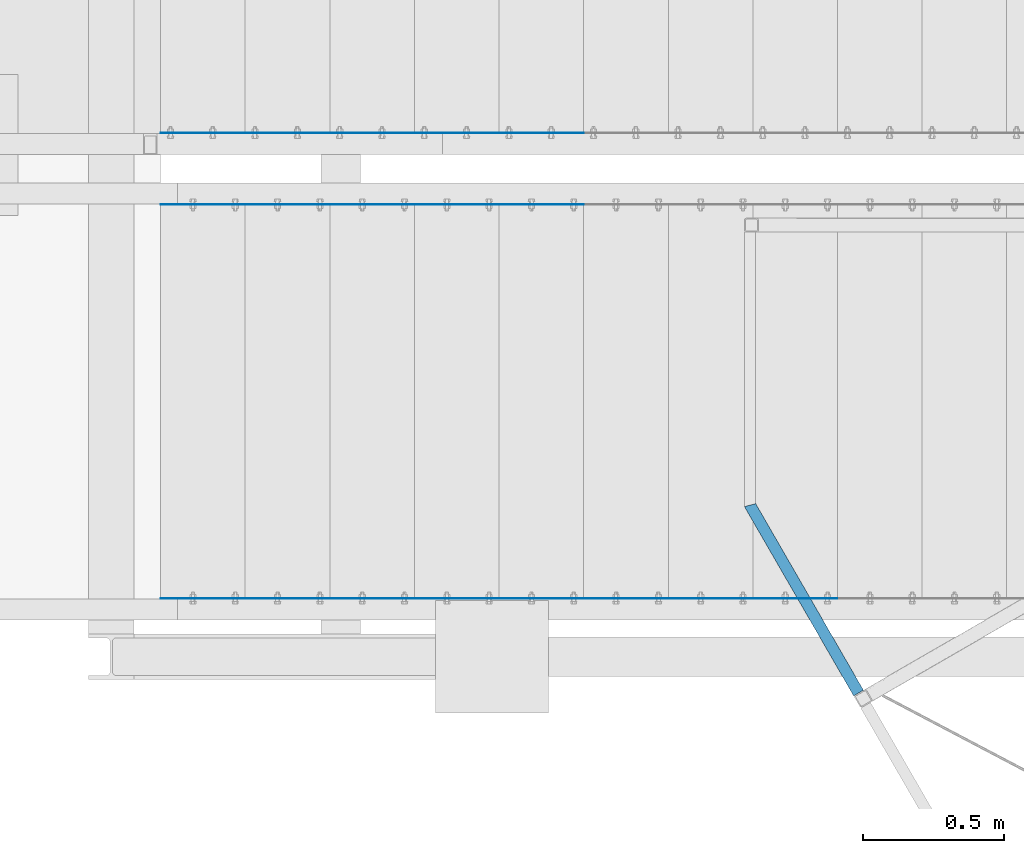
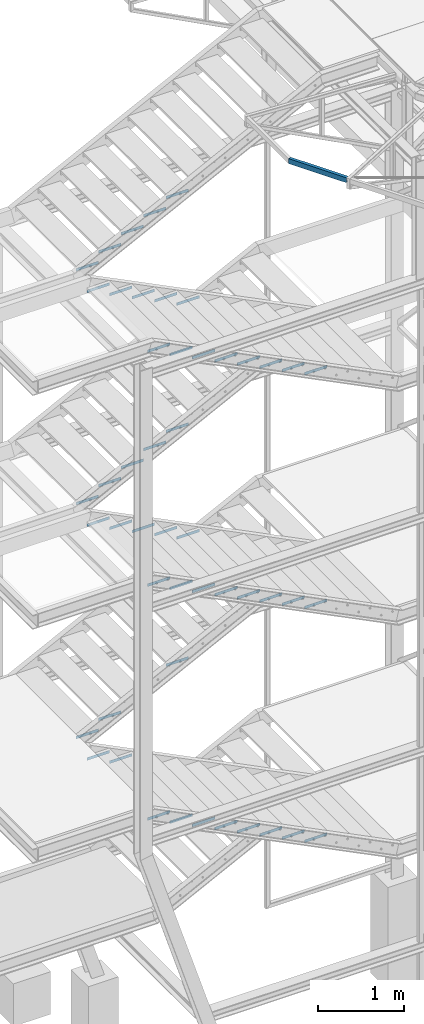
# One storey, part 64 of 132: 50 discrete accessories, 38 elements without a shape of their own.
"""IFC2X3 building model written with IfcOpenShell, lengths in millimetres."""

from ifc_helpers import new_model, si_unit, frame, origin_with_axes, origin_2d_with_axis, place, context, subcontext, project, spatial, rectangle, u_section, extrude, clip, halfspace, material, type_object, element, aggregate, save


model = new_model("IFC2X3")

# Units and contexts
model_context = context("Model", 3, precision=1e-05, world=origin_with_axes())
body_context = subcontext(model_context, "Body", "Model", "MODEL_VIEW")
ifc_project = project(units=[si_unit("LENGTHUNIT", "METRE", prefix="MILLI"), si_unit("AREAUNIT", "SQUARE_METRE"), si_unit("VOLUMEUNIT", "CUBIC_METRE"), si_unit("MASSUNIT", "GRAM", prefix="KILO"), si_unit("TIMEUNIT", "SECOND"), si_unit("PLANEANGLEUNIT", "RADIAN"), si_unit("SOLIDANGLEUNIT", "STERADIAN"), si_unit("THERMODYNAMICTEMPERATUREUNIT", "DEGREE_CELSIUS"), si_unit("LUMINOUSINTENSITYUNIT", "LUMEN")], contexts=[model_context])

# Site, building, storey
site_placement = place(None, origin_with_axes())
site = spatial("IfcSite", under=ifc_project, at=site_placement, Name="Budowa", CompositionType="ELEMENT")
building_placement = place(site_placement, origin_with_axes())
building = spatial("IfcBuilding", under=site, at=building_placement, Name="Undefined", CompositionType="ELEMENT")
storey_placement = place(building_placement, origin_with_axes())
storey = spatial("IfcBuildingStorey", under=building, at=storey_placement, Name="Undefined", CompositionType="ELEMENT", Elevation=0.0)

# Assembly, discrete accessory
assembly_1_placement = place(storey_placement, origin_with_axes())
assembly_1 = element("IfcElementAssembly", 1, at=assembly_1_placement, inside=storey, Name="Steel Assembly", AssemblyPlace="NOTDEFINED", PredefinedType="RIGID_FRAME")
ifc_material_1 = material(Name="STEEL/S235")
discrete_accessory_type_1 = type_object("IfcDiscreteAccessoryType", Name="BEAM")
discrete_accessory_1_placement = place(assembly_1_placement, frame((-2120.29630928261, 8363.77545314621, 13945.004638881), z_axis=(0.0, 0.0, -1.0), x_axis=(0.499961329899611, -0.866047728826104, 3.99999999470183e-07)))
discrete_accessory_1 = element("IfcDiscreteAccessory", 2, at=discrete_accessory_1_placement, type_object=discrete_accessory_type_1, material=ifc_material_1, Name="BEAM", ObjectType="C70*40*4", context=body_context, shape_type="Clipping", body=[
    clip(extrude(u_section(Depth=70.0, FlangeWidth=40.0, WebThickness=4.0, FlangeThickness=4.0, FilletRadius=6.0, at=origin_2d_with_axis()), frame((950.000000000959, 1.82248795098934e-14, 0.0), z_axis=(-1.0, 0.0, 0.0), x_axis=(0.0, -1.0, 0.0)), (0.0, 0.0, 1.0), 801.67), halfspace(frame((185.964342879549, -20.0000242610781, -1.38634150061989e-05), z_axis=(-0.965931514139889, -0.258797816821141, -1.79406585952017e-07), x_axis=(0.0, 0.0, -1.0)), False)),
])
aggregate(assembly_1, [discrete_accessory_1])

assembly_2_placement = place(storey_placement, origin_with_axes())
assembly_2 = element("IfcElementAssembly", 3, at=assembly_2_placement, inside=storey, Name="Steel Assembly", AssemblyPlace="NOTDEFINED", PredefinedType="RIGID_FRAME")
ifc_material_2 = material(Name="STEEL/S235JR")
discrete_accessory_type_2 = type_object("IfcDiscreteAccessoryType", Name="ANGLE")
discrete_accessory_2_placement = place(assembly_2_placement, frame((-2620.00000008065, 9526.5000000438, 12929.9999999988), z_axis=(0.0, 1.0, 0.0), x_axis=(-1.0, 0.0, 0.0)))
discrete_accessory_2 = element("IfcDiscreteAccessory", 4, at=discrete_accessory_2_placement, type_object=discrete_accessory_type_2, material=ifc_material_2, Name="ANGLE", ObjectType="3*40", context=body_context, shape_type="SweptSolid", body=[
    extrude(rectangle(XDim=40.0, YDim=3.0, at=origin_2d_with_axis()), frame((300.0, 0.0, 0.0), z_axis=(-1.0, 0.0, 0.0), x_axis=(0.0, -1.0, 0.0)), (0.0, 0.0, 1.0), 300.0),
])
aggregate(assembly_2, [discrete_accessory_2])

assembly_3_placement = place(storey_placement, origin_with_axes())
assembly_3 = element("IfcElementAssembly", 5, at=assembly_3_placement, inside=storey, Name="Steel Assembly", AssemblyPlace="NOTDEFINED", PredefinedType="RIGID_FRAME")
discrete_accessory_3_placement = place(assembly_3_placement, frame((-2920.00000008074, 9526.5000000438, 12779.9999999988), z_axis=(0.0, 1.0, 0.0), x_axis=(-1.0, 0.0, 0.0)))
discrete_accessory_3 = element("IfcDiscreteAccessory", 6, at=discrete_accessory_3_placement, type_object=discrete_accessory_type_2, material=ifc_material_2, Name="ANGLE", ObjectType="3*40", context=body_context, shape_type="SweptSolid", body=[
    extrude(rectangle(XDim=40.0, YDim=3.0, at=origin_2d_with_axis()), frame((300.0, 0.0, 0.0), z_axis=(-1.0, 0.0, 0.0), x_axis=(0.0, -1.0, 0.0)), (0.0, 0.0, 1.0), 300.0),
])
aggregate(assembly_3, [discrete_accessory_3])

assembly_4_placement = place(storey_placement, origin_with_axes())
assembly_4 = element("IfcElementAssembly", 7, at=assembly_4_placement, inside=storey, Name="Steel Assembly", AssemblyPlace="NOTDEFINED", PredefinedType="RIGID_FRAME")
discrete_accessory_4_placement = place(assembly_4_placement, frame((-3220.00000008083, 9526.5000000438, 12629.9999999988), z_axis=(0.0, 1.0, 0.0), x_axis=(-1.0, 0.0, 0.0)))
discrete_accessory_4 = element("IfcDiscreteAccessory", 8, at=discrete_accessory_4_placement, type_object=discrete_accessory_type_2, material=ifc_material_2, Name="ANGLE", ObjectType="3*40", context=body_context, shape_type="SweptSolid", body=[
    extrude(rectangle(XDim=40.0, YDim=3.0, at=origin_2d_with_axis()), frame((300.0, 0.0, 0.0), z_axis=(-1.0, 0.0, 0.0), x_axis=(0.0, -1.0, 0.0)), (0.0, 0.0, 1.0), 300.0),
])
aggregate(assembly_4, [discrete_accessory_4])

assembly_5_placement = place(storey_placement, origin_with_axes())
assembly_5 = element("IfcElementAssembly", 9, at=assembly_5_placement, inside=storey, Name="Steel Assembly", AssemblyPlace="NOTDEFINED", PredefinedType="RIGID_FRAME")
discrete_accessory_5_placement = place(assembly_5_placement, frame((-3520.00000008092, 9526.5000000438, 12479.9999999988), z_axis=(0.0, 1.0, 0.0), x_axis=(-1.0, 0.0, 0.0)))
discrete_accessory_5 = element("IfcDiscreteAccessory", 10, at=discrete_accessory_5_placement, type_object=discrete_accessory_type_2, material=ifc_material_2, Name="ANGLE", ObjectType="3*40", context=body_context, shape_type="SweptSolid", body=[
    extrude(rectangle(XDim=40.0, YDim=3.0, at=origin_2d_with_axis()), frame((300.0, 0.0, 0.0), z_axis=(-1.0, 0.0, 0.0), x_axis=(0.0, -1.0, 0.0)), (0.0, 0.0, 1.0), 300.0),
])
aggregate(assembly_5, [discrete_accessory_5])

assembly_6_placement = place(storey_placement, origin_with_axes())
assembly_6 = element("IfcElementAssembly", 11, at=assembly_6_placement, inside=storey, Name="Steel Assembly", AssemblyPlace="NOTDEFINED", PredefinedType="RIGID_FRAME")
discrete_accessory_6_placement = place(assembly_6_placement, frame((-3820.00000008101, 9526.5000000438, 12329.9999999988), z_axis=(0.0, 1.0, 0.0), x_axis=(-1.0, 0.0, 0.0)))
discrete_accessory_6 = element("IfcDiscreteAccessory", 12, at=discrete_accessory_6_placement, type_object=discrete_accessory_type_2, material=ifc_material_2, Name="ANGLE", ObjectType="3*40", context=body_context, shape_type="SweptSolid", body=[
    extrude(rectangle(XDim=40.0, YDim=3.0, at=origin_2d_with_axis()), frame((300.0, 0.0, 0.0), z_axis=(-1.0, 0.0, 0.0), x_axis=(0.0, -1.0, 0.0)), (0.0, 0.0, 1.0), 300.0),
])
aggregate(assembly_6, [discrete_accessory_6])

# Assembly, discrete accessories
assembly_7_placement = place(storey_placement, origin_with_axes())
assembly_7 = element("IfcElementAssembly", 13, at=assembly_7_placement, inside=storey, Name="Steel Assembly", AssemblyPlace="NOTDEFINED", PredefinedType="RIGID_FRAME")
discrete_accessory_7_placement = place(assembly_7_placement, frame((-3820.00000007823, 7876.50000004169, 12180.0000000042), z_axis=(0.0, 1.0, 0.0), x_axis=(-1.0, 0.0, 0.0)))
discrete_accessory_7 = element("IfcDiscreteAccessory", 14, at=discrete_accessory_7_placement, type_object=discrete_accessory_type_2, material=ifc_material_2, Name="ANGLE", ObjectType="3*40", context=body_context, shape_type="SweptSolid", body=[
    extrude(rectangle(XDim=40.0, YDim=3.0, at=origin_2d_with_axis()), frame((300.0, 0.0, 0.0), z_axis=(-1.0, 0.0, 0.0), x_axis=(0.0, -1.0, 0.0)), (0.0, 0.0, 1.0), 300.0),
])
discrete_accessory_8_placement = place(assembly_7_placement, frame((-4120.00000007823, 9273.50000004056, 12180.0000000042), z_axis=(0.0, -1.0, 0.0), x_axis=(1.0, 0.0, 0.0)))
discrete_accessory_8 = element("IfcDiscreteAccessory", 15, at=discrete_accessory_8_placement, type_object=discrete_accessory_type_2, material=ifc_material_2, Name="ANGLE", ObjectType="3*40", context=body_context, shape_type="SweptSolid", body=[
    extrude(rectangle(XDim=40.0, YDim=3.0, at=origin_2d_with_axis()), frame((300.0, 0.0, 0.0), z_axis=(-1.0, 0.0, 0.0), x_axis=(0.0, -1.0, 0.0)), (0.0, 0.0, 1.0), 300.0),
])
aggregate(assembly_7, [discrete_accessory_7, discrete_accessory_8])

assembly_8_placement = place(storey_placement, origin_with_axes())
assembly_8 = element("IfcElementAssembly", 16, at=assembly_8_placement, inside=storey, Name="Steel Assembly", AssemblyPlace="NOTDEFINED", PredefinedType="RIGID_FRAME")
discrete_accessory_9_placement = place(assembly_8_placement, frame((-3520.00000007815, 7876.50000004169, 12030.0000000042), z_axis=(0.0, 1.0, 0.0), x_axis=(-1.0, 0.0, 0.0)))
discrete_accessory_9 = element("IfcDiscreteAccessory", 17, at=discrete_accessory_9_placement, type_object=discrete_accessory_type_2, material=ifc_material_2, Name="ANGLE", ObjectType="3*40", context=body_context, shape_type="SweptSolid", body=[
    extrude(rectangle(XDim=40.0, YDim=3.0, at=origin_2d_with_axis()), frame((300.0, 0.0, 0.0), z_axis=(-1.0, 0.0, 0.0), x_axis=(0.0, -1.0, 0.0)), (0.0, 0.0, 1.0), 300.0),
])
discrete_accessory_10_placement = place(assembly_8_placement, frame((-3820.00000007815, 9273.50000004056, 12030.0000000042), z_axis=(0.0, -1.0, 0.0), x_axis=(1.0, 0.0, 0.0)))
discrete_accessory_10 = element("IfcDiscreteAccessory", 18, at=discrete_accessory_10_placement, type_object=discrete_accessory_type_2, material=ifc_material_2, Name="ANGLE", ObjectType="3*40", context=body_context, shape_type="SweptSolid", body=[
    extrude(rectangle(XDim=40.0, YDim=3.0, at=origin_2d_with_axis()), frame((300.0, 0.0, 0.0), z_axis=(-1.0, 0.0, 0.0), x_axis=(0.0, -1.0, 0.0)), (0.0, 0.0, 1.0), 300.0),
])
aggregate(assembly_8, [discrete_accessory_9, discrete_accessory_10])

assembly_9_placement = place(storey_placement, origin_with_axes())
assembly_9 = element("IfcElementAssembly", 19, at=assembly_9_placement, inside=storey, Name="Steel Assembly", AssemblyPlace="NOTDEFINED", PredefinedType="RIGID_FRAME")
discrete_accessory_11_placement = place(assembly_9_placement, frame((-3220.00000007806, 7876.50000004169, 11880.0000000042), z_axis=(0.0, 1.0, 0.0), x_axis=(-1.0, 0.0, 0.0)))
discrete_accessory_11 = element("IfcDiscreteAccessory", 20, at=discrete_accessory_11_placement, type_object=discrete_accessory_type_2, material=ifc_material_2, Name="ANGLE", ObjectType="3*40", context=body_context, shape_type="SweptSolid", body=[
    extrude(rectangle(XDim=40.0, YDim=3.0, at=origin_2d_with_axis()), frame((300.0, 0.0, 0.0), z_axis=(-1.0, 0.0, 0.0), x_axis=(0.0, -1.0, 0.0)), (0.0, 0.0, 1.0), 300.0),
])
discrete_accessory_12_placement = place(assembly_9_placement, frame((-3520.00000007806, 9273.50000004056, 11880.0000000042), z_axis=(0.0, -1.0, 0.0), x_axis=(1.0, 0.0, 0.0)))
discrete_accessory_12 = element("IfcDiscreteAccessory", 21, at=discrete_accessory_12_placement, type_object=discrete_accessory_type_2, material=ifc_material_2, Name="ANGLE", ObjectType="3*40", context=body_context, shape_type="SweptSolid", body=[
    extrude(rectangle(XDim=40.0, YDim=3.0, at=origin_2d_with_axis()), frame((300.0, 0.0, 0.0), z_axis=(-1.0, 0.0, 0.0), x_axis=(0.0, -1.0, 0.0)), (0.0, 0.0, 1.0), 300.0),
])
aggregate(assembly_9, [discrete_accessory_11, discrete_accessory_12])

assembly_10_placement = place(storey_placement, origin_with_axes())
assembly_10 = element("IfcElementAssembly", 22, at=assembly_10_placement, inside=storey, Name="Steel Assembly", AssemblyPlace="NOTDEFINED", PredefinedType="RIGID_FRAME")
discrete_accessory_13_placement = place(assembly_10_placement, frame((-2920.00000007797, 7876.50000004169, 11730.0000000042), z_axis=(0.0, 1.0, 0.0), x_axis=(-1.0, 0.0, 0.0)))
discrete_accessory_13 = element("IfcDiscreteAccessory", 23, at=discrete_accessory_13_placement, type_object=discrete_accessory_type_2, material=ifc_material_2, Name="ANGLE", ObjectType="3*40", context=body_context, shape_type="SweptSolid", body=[
    extrude(rectangle(XDim=40.0, YDim=3.0, at=origin_2d_with_axis()), frame((300.0, 0.0, 0.0), z_axis=(-1.0, 0.0, 0.0), x_axis=(0.0, -1.0, 0.0)), (0.0, 0.0, 1.0), 300.0),
])
discrete_accessory_14_placement = place(assembly_10_placement, frame((-3220.00000007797, 9273.50000004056, 11730.0000000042), z_axis=(0.0, -1.0, 0.0), x_axis=(1.0, 0.0, 0.0)))
discrete_accessory_14 = element("IfcDiscreteAccessory", 24, at=discrete_accessory_14_placement, type_object=discrete_accessory_type_2, material=ifc_material_2, Name="ANGLE", ObjectType="3*40", context=body_context, shape_type="SweptSolid", body=[
    extrude(rectangle(XDim=40.0, YDim=3.0, at=origin_2d_with_axis()), frame((300.0, 0.0, 0.0), z_axis=(-1.0, 0.0, 0.0), x_axis=(0.0, -1.0, 0.0)), (0.0, 0.0, 1.0), 300.0),
])
aggregate(assembly_10, [discrete_accessory_13, discrete_accessory_14])

assembly_11_placement = place(storey_placement, origin_with_axes())
assembly_11 = element("IfcElementAssembly", 25, at=assembly_11_placement, inside=storey, Name="Steel Assembly", AssemblyPlace="NOTDEFINED", PredefinedType="RIGID_FRAME")
discrete_accessory_15_placement = place(assembly_11_placement, frame((-2620.00000007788, 7876.50000004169, 11580.000000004), z_axis=(0.0, 1.0, 0.0), x_axis=(-1.0, 0.0, 0.0)))
discrete_accessory_15 = element("IfcDiscreteAccessory", 26, at=discrete_accessory_15_placement, type_object=discrete_accessory_type_2, material=ifc_material_2, Name="ANGLE", ObjectType="3*40", context=body_context, shape_type="SweptSolid", body=[
    extrude(rectangle(XDim=40.0, YDim=3.0, at=origin_2d_with_axis()), frame((300.0, 0.0, 0.0), z_axis=(-1.0, 0.0, 0.0), x_axis=(0.0, -1.0, 0.0)), (0.0, 0.0, 1.0), 300.0),
])
discrete_accessory_16_placement = place(assembly_11_placement, frame((-2920.00000007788, 9273.50000004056, 11580.0000000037), z_axis=(0.0, -1.0, 0.0), x_axis=(1.0, 0.0, 0.0)))
discrete_accessory_16 = element("IfcDiscreteAccessory", 27, at=discrete_accessory_16_placement, type_object=discrete_accessory_type_2, material=ifc_material_2, Name="ANGLE", ObjectType="3*40", context=body_context, shape_type="SweptSolid", body=[
    extrude(rectangle(XDim=40.0, YDim=3.0, at=origin_2d_with_axis()), frame((300.0, 0.0, 0.0), z_axis=(-1.0, 0.0, 0.0), x_axis=(0.0, -1.0, 0.0)), (0.0, 0.0, 1.0), 300.0),
])
aggregate(assembly_11, [discrete_accessory_15, discrete_accessory_16])

# Assembly, discrete accessory
assembly_12_placement = place(storey_placement, origin_with_axes())
assembly_12 = element("IfcElementAssembly", 28, at=assembly_12_placement, inside=storey, Name="Steel Assembly", AssemblyPlace="NOTDEFINED", PredefinedType="RIGID_FRAME")
discrete_accessory_17_placement = place(assembly_12_placement, frame((-2320.00000007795, 7876.50000004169, 11430.000000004), z_axis=(0.0, 1.0, 0.0), x_axis=(-1.0, 0.0, 0.0)))
discrete_accessory_17 = element("IfcDiscreteAccessory", 29, at=discrete_accessory_17_placement, type_object=discrete_accessory_type_2, material=ifc_material_2, Name="ANGLE", ObjectType="3*40", context=body_context, shape_type="SweptSolid", body=[
    extrude(rectangle(XDim=40.0, YDim=3.0, at=origin_2d_with_axis()), frame((300.0, 0.0, 0.0), z_axis=(-1.0, 0.0, 0.0), x_axis=(0.0, -1.0, 0.0)), (0.0, 0.0, 1.0), 300.0),
])
aggregate(assembly_12, [discrete_accessory_17])

assembly_13_placement = place(storey_placement, origin_with_axes())
assembly_13 = element("IfcElementAssembly", 30, at=assembly_13_placement, inside=storey, Name="Steel Assembly", AssemblyPlace="NOTDEFINED", PredefinedType="RIGID_FRAME")
discrete_accessory_18_placement = place(assembly_13_placement, frame((-2020.00000007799, 7876.50000004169, 11280.0000000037), z_axis=(0.0, 1.0, 0.0), x_axis=(-1.0, 0.0, 0.0)))
discrete_accessory_18 = element("IfcDiscreteAccessory", 31, at=discrete_accessory_18_placement, type_object=discrete_accessory_type_2, material=ifc_material_2, Name="ANGLE", ObjectType="3*40", context=body_context, shape_type="SweptSolid", body=[
    extrude(rectangle(XDim=40.0, YDim=3.0, at=origin_2d_with_axis()), frame((300.0, 0.0, 0.0), z_axis=(-1.0, 0.0, 0.0), x_axis=(0.0, -1.0, 0.0)), (0.0, 0.0, 1.0), 300.0),
])
aggregate(assembly_13, [discrete_accessory_18])

assembly_14_placement = place(storey_placement, origin_with_axes())
assembly_14 = element("IfcElementAssembly", 32, at=assembly_14_placement, inside=storey, Name="Steel Assembly", AssemblyPlace="NOTDEFINED", PredefinedType="RIGID_FRAME")
discrete_accessory_19_placement = place(assembly_14_placement, frame((-1720.00000007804, 7876.50000004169, 11130.0000000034), z_axis=(0.0, 1.0, 0.0), x_axis=(-1.0, 0.0, 0.0)))
discrete_accessory_19 = element("IfcDiscreteAccessory", 33, at=discrete_accessory_19_placement, type_object=discrete_accessory_type_2, material=ifc_material_2, Name="ANGLE", ObjectType="3*40", context=body_context, shape_type="SweptSolid", body=[
    extrude(rectangle(XDim=40.0, YDim=3.0, at=origin_2d_with_axis()), frame((300.0, 0.0, 0.0), z_axis=(-1.0, 0.0, 0.0), x_axis=(0.0, -1.0, 0.0)), (0.0, 0.0, 1.0), 300.0),
])
aggregate(assembly_14, [discrete_accessory_19])

assembly_15_placement = place(storey_placement, origin_with_axes())
assembly_15 = element("IfcElementAssembly", 34, at=assembly_15_placement, inside=storey, Name="Steel Assembly", AssemblyPlace="NOTDEFINED", PredefinedType="RIGID_FRAME")
discrete_accessory_20_placement = place(assembly_15_placement, frame((-2620.00000008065, 9526.5000000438, 9629.99999999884), z_axis=(0.0, 1.0, 0.0), x_axis=(-1.0, 0.0, 0.0)))
discrete_accessory_20 = element("IfcDiscreteAccessory", 35, at=discrete_accessory_20_placement, type_object=discrete_accessory_type_2, material=ifc_material_2, Name="ANGLE", ObjectType="3*40", context=body_context, shape_type="SweptSolid", body=[
    extrude(rectangle(XDim=40.0, YDim=3.0, at=origin_2d_with_axis()), frame((300.0, 0.0, 0.0), z_axis=(-1.0, 0.0, 0.0), x_axis=(0.0, -1.0, 0.0)), (0.0, 0.0, 1.0), 300.0),
])
aggregate(assembly_15, [discrete_accessory_20])

assembly_16_placement = place(storey_placement, origin_with_axes())
assembly_16 = element("IfcElementAssembly", 36, at=assembly_16_placement, inside=storey, Name="Steel Assembly", AssemblyPlace="NOTDEFINED", PredefinedType="RIGID_FRAME")
discrete_accessory_21_placement = place(assembly_16_placement, frame((-2920.00000008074, 9526.5000000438, 9479.99999999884), z_axis=(0.0, 1.0, 0.0), x_axis=(-1.0, 0.0, 0.0)))
discrete_accessory_21 = element("IfcDiscreteAccessory", 37, at=discrete_accessory_21_placement, type_object=discrete_accessory_type_2, material=ifc_material_2, Name="ANGLE", ObjectType="3*40", context=body_context, shape_type="SweptSolid", body=[
    extrude(rectangle(XDim=40.0, YDim=3.0, at=origin_2d_with_axis()), frame((300.0, 0.0, 0.0), z_axis=(-1.0, 0.0, 0.0), x_axis=(0.0, -1.0, 0.0)), (0.0, 0.0, 1.0), 300.0),
])
aggregate(assembly_16, [discrete_accessory_21])

assembly_17_placement = place(storey_placement, origin_with_axes())
assembly_17 = element("IfcElementAssembly", 38, at=assembly_17_placement, inside=storey, Name="Steel Assembly", AssemblyPlace="NOTDEFINED", PredefinedType="RIGID_FRAME")
discrete_accessory_22_placement = place(assembly_17_placement, frame((-3220.00000008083, 9526.5000000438, 9329.99999999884), z_axis=(0.0, 1.0, 0.0), x_axis=(-1.0, 0.0, 0.0)))
discrete_accessory_22 = element("IfcDiscreteAccessory", 39, at=discrete_accessory_22_placement, type_object=discrete_accessory_type_2, material=ifc_material_2, Name="ANGLE", ObjectType="3*40", context=body_context, shape_type="SweptSolid", body=[
    extrude(rectangle(XDim=40.0, YDim=3.0, at=origin_2d_with_axis()), frame((300.0, 0.0, 0.0), z_axis=(-1.0, 0.0, 0.0), x_axis=(0.0, -1.0, 0.0)), (0.0, 0.0, 1.0), 300.0),
])
aggregate(assembly_17, [discrete_accessory_22])

assembly_18_placement = place(storey_placement, origin_with_axes())
assembly_18 = element("IfcElementAssembly", 40, at=assembly_18_placement, inside=storey, Name="Steel Assembly", AssemblyPlace="NOTDEFINED", PredefinedType="RIGID_FRAME")
discrete_accessory_23_placement = place(assembly_18_placement, frame((-3520.00000008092, 9526.5000000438, 9179.99999999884), z_axis=(0.0, 1.0, 0.0), x_axis=(-1.0, 0.0, 0.0)))
discrete_accessory_23 = element("IfcDiscreteAccessory", 41, at=discrete_accessory_23_placement, type_object=discrete_accessory_type_2, material=ifc_material_2, Name="ANGLE", ObjectType="3*40", context=body_context, shape_type="SweptSolid", body=[
    extrude(rectangle(XDim=40.0, YDim=3.0, at=origin_2d_with_axis()), frame((300.0, 0.0, 0.0), z_axis=(-1.0, 0.0, 0.0), x_axis=(0.0, -1.0, 0.0)), (0.0, 0.0, 1.0), 300.0),
])
aggregate(assembly_18, [discrete_accessory_23])

assembly_19_placement = place(storey_placement, origin_with_axes())
assembly_19 = element("IfcElementAssembly", 42, at=assembly_19_placement, inside=storey, Name="Steel Assembly", AssemblyPlace="NOTDEFINED", PredefinedType="RIGID_FRAME")
discrete_accessory_24_placement = place(assembly_19_placement, frame((-3820.00000008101, 9526.5000000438, 9029.99999999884), z_axis=(0.0, 1.0, 0.0), x_axis=(-1.0, 0.0, 0.0)))
discrete_accessory_24 = element("IfcDiscreteAccessory", 43, at=discrete_accessory_24_placement, type_object=discrete_accessory_type_2, material=ifc_material_2, Name="ANGLE", ObjectType="3*40", context=body_context, shape_type="SweptSolid", body=[
    extrude(rectangle(XDim=40.0, YDim=3.0, at=origin_2d_with_axis()), frame((300.0, 0.0, 0.0), z_axis=(-1.0, 0.0, 0.0), x_axis=(0.0, -1.0, 0.0)), (0.0, 0.0, 1.0), 300.0),
])
aggregate(assembly_19, [discrete_accessory_24])

# Assembly, discrete accessories
assembly_20_placement = place(storey_placement, origin_with_axes())
assembly_20 = element("IfcElementAssembly", 44, at=assembly_20_placement, inside=storey, Name="Steel Assembly", AssemblyPlace="NOTDEFINED", PredefinedType="RIGID_FRAME")
discrete_accessory_25_placement = place(assembly_20_placement, frame((-3820.00000007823, 7876.50000004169, 8880.00000000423), z_axis=(0.0, 1.0, 0.0), x_axis=(-1.0, 0.0, 0.0)))
discrete_accessory_25 = element("IfcDiscreteAccessory", 45, at=discrete_accessory_25_placement, type_object=discrete_accessory_type_2, material=ifc_material_2, Name="ANGLE", ObjectType="3*40", context=body_context, shape_type="SweptSolid", body=[
    extrude(rectangle(XDim=40.0, YDim=3.0, at=origin_2d_with_axis()), frame((300.0, 0.0, 0.0), z_axis=(-1.0, 0.0, 0.0), x_axis=(0.0, -1.0, 0.0)), (0.0, 0.0, 1.0), 300.0),
])
discrete_accessory_26_placement = place(assembly_20_placement, frame((-4120.00000007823, 9273.50000004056, 8880.00000000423), z_axis=(0.0, -1.0, 0.0), x_axis=(1.0, 0.0, 0.0)))
discrete_accessory_26 = element("IfcDiscreteAccessory", 46, at=discrete_accessory_26_placement, type_object=discrete_accessory_type_2, material=ifc_material_2, Name="ANGLE", ObjectType="3*40", context=body_context, shape_type="SweptSolid", body=[
    extrude(rectangle(XDim=40.0, YDim=3.0, at=origin_2d_with_axis()), frame((300.0, 0.0, 0.0), z_axis=(-1.0, 0.0, 0.0), x_axis=(0.0, -1.0, 0.0)), (0.0, 0.0, 1.0), 300.0),
])
aggregate(assembly_20, [discrete_accessory_25, discrete_accessory_26])

assembly_21_placement = place(storey_placement, origin_with_axes())
assembly_21 = element("IfcElementAssembly", 47, at=assembly_21_placement, inside=storey, Name="Steel Assembly", AssemblyPlace="NOTDEFINED", PredefinedType="RIGID_FRAME")
discrete_accessory_27_placement = place(assembly_21_placement, frame((-3520.00000007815, 7876.50000004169, 8730.00000000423), z_axis=(0.0, 1.0, 0.0), x_axis=(-1.0, 0.0, 0.0)))
discrete_accessory_27 = element("IfcDiscreteAccessory", 48, at=discrete_accessory_27_placement, type_object=discrete_accessory_type_2, material=ifc_material_2, Name="ANGLE", ObjectType="3*40", context=body_context, shape_type="SweptSolid", body=[
    extrude(rectangle(XDim=40.0, YDim=3.0, at=origin_2d_with_axis()), frame((300.0, 0.0, 0.0), z_axis=(-1.0, 0.0, 0.0), x_axis=(0.0, -1.0, 0.0)), (0.0, 0.0, 1.0), 300.0),
])
discrete_accessory_28_placement = place(assembly_21_placement, frame((-3820.00000007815, 9273.50000004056, 8730.00000000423), z_axis=(0.0, -1.0, 0.0), x_axis=(1.0, 0.0, 0.0)))
discrete_accessory_28 = element("IfcDiscreteAccessory", 49, at=discrete_accessory_28_placement, type_object=discrete_accessory_type_2, material=ifc_material_2, Name="ANGLE", ObjectType="3*40", context=body_context, shape_type="SweptSolid", body=[
    extrude(rectangle(XDim=40.0, YDim=3.0, at=origin_2d_with_axis()), frame((300.0, 0.0, 0.0), z_axis=(-1.0, 0.0, 0.0), x_axis=(0.0, -1.0, 0.0)), (0.0, 0.0, 1.0), 300.0),
])
aggregate(assembly_21, [discrete_accessory_27, discrete_accessory_28])

assembly_22_placement = place(storey_placement, origin_with_axes())
assembly_22 = element("IfcElementAssembly", 50, at=assembly_22_placement, inside=storey, Name="Steel Assembly", AssemblyPlace="NOTDEFINED", PredefinedType="RIGID_FRAME")
discrete_accessory_29_placement = place(assembly_22_placement, frame((-3220.00000007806, 7876.50000004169, 8580.00000000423), z_axis=(0.0, 1.0, 0.0), x_axis=(-1.0, 0.0, 0.0)))
discrete_accessory_29 = element("IfcDiscreteAccessory", 51, at=discrete_accessory_29_placement, type_object=discrete_accessory_type_2, material=ifc_material_2, Name="ANGLE", ObjectType="3*40", context=body_context, shape_type="SweptSolid", body=[
    extrude(rectangle(XDim=40.0, YDim=3.0, at=origin_2d_with_axis()), frame((300.0, 0.0, 0.0), z_axis=(-1.0, 0.0, 0.0), x_axis=(0.0, -1.0, 0.0)), (0.0, 0.0, 1.0), 300.0),
])
discrete_accessory_30_placement = place(assembly_22_placement, frame((-3520.00000007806, 9273.50000004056, 8580.00000000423), z_axis=(0.0, -1.0, 0.0), x_axis=(1.0, 0.0, 0.0)))
discrete_accessory_30 = element("IfcDiscreteAccessory", 52, at=discrete_accessory_30_placement, type_object=discrete_accessory_type_2, material=ifc_material_2, Name="ANGLE", ObjectType="3*40", context=body_context, shape_type="SweptSolid", body=[
    extrude(rectangle(XDim=40.0, YDim=3.0, at=origin_2d_with_axis()), frame((300.0, 0.0, 0.0), z_axis=(-1.0, 0.0, 0.0), x_axis=(0.0, -1.0, 0.0)), (0.0, 0.0, 1.0), 300.0),
])
aggregate(assembly_22, [discrete_accessory_29, discrete_accessory_30])

assembly_23_placement = place(storey_placement, origin_with_axes())
assembly_23 = element("IfcElementAssembly", 53, at=assembly_23_placement, inside=storey, Name="Steel Assembly", AssemblyPlace="NOTDEFINED", PredefinedType="RIGID_FRAME")
discrete_accessory_31_placement = place(assembly_23_placement, frame((-2920.00000007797, 7876.50000004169, 8430.00000000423), z_axis=(0.0, 1.0, 0.0), x_axis=(-1.0, 0.0, 0.0)))
discrete_accessory_31 = element("IfcDiscreteAccessory", 54, at=discrete_accessory_31_placement, type_object=discrete_accessory_type_2, material=ifc_material_2, Name="ANGLE", ObjectType="3*40", context=body_context, shape_type="SweptSolid", body=[
    extrude(rectangle(XDim=40.0, YDim=3.0, at=origin_2d_with_axis()), frame((300.0, 0.0, 0.0), z_axis=(-1.0, 0.0, 0.0), x_axis=(0.0, -1.0, 0.0)), (0.0, 0.0, 1.0), 300.0),
])
discrete_accessory_32_placement = place(assembly_23_placement, frame((-3220.00000007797, 9273.50000004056, 8430.00000000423), z_axis=(0.0, -1.0, 0.0), x_axis=(1.0, 0.0, 0.0)))
discrete_accessory_32 = element("IfcDiscreteAccessory", 55, at=discrete_accessory_32_placement, type_object=discrete_accessory_type_2, material=ifc_material_2, Name="ANGLE", ObjectType="3*40", context=body_context, shape_type="SweptSolid", body=[
    extrude(rectangle(XDim=40.0, YDim=3.0, at=origin_2d_with_axis()), frame((300.0, 0.0, 0.0), z_axis=(-1.0, 0.0, 0.0), x_axis=(0.0, -1.0, 0.0)), (0.0, 0.0, 1.0), 300.0),
])
aggregate(assembly_23, [discrete_accessory_31, discrete_accessory_32])

assembly_24_placement = place(storey_placement, origin_with_axes())
assembly_24 = element("IfcElementAssembly", 56, at=assembly_24_placement, inside=storey, Name="Steel Assembly", AssemblyPlace="NOTDEFINED", PredefinedType="RIGID_FRAME")
discrete_accessory_33_placement = place(assembly_24_placement, frame((-2620.00000007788, 7876.50000004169, 8280.00000000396), z_axis=(0.0, 1.0, 0.0), x_axis=(-1.0, 0.0, 0.0)))
discrete_accessory_33 = element("IfcDiscreteAccessory", 57, at=discrete_accessory_33_placement, type_object=discrete_accessory_type_2, material=ifc_material_2, Name="ANGLE", ObjectType="3*40", context=body_context, shape_type="SweptSolid", body=[
    extrude(rectangle(XDim=40.0, YDim=3.0, at=origin_2d_with_axis()), frame((300.0, 0.0, 0.0), z_axis=(-1.0, 0.0, 0.0), x_axis=(0.0, -1.0, 0.0)), (0.0, 0.0, 1.0), 300.0),
])
discrete_accessory_34_placement = place(assembly_24_placement, frame((-2920.00000007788, 9273.50000004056, 8280.00000000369), z_axis=(0.0, -1.0, 0.0), x_axis=(1.0, 0.0, 0.0)))
discrete_accessory_34 = element("IfcDiscreteAccessory", 58, at=discrete_accessory_34_placement, type_object=discrete_accessory_type_2, material=ifc_material_2, Name="ANGLE", ObjectType="3*40", context=body_context, shape_type="SweptSolid", body=[
    extrude(rectangle(XDim=40.0, YDim=3.0, at=origin_2d_with_axis()), frame((300.0, 0.0, 0.0), z_axis=(-1.0, 0.0, 0.0), x_axis=(0.0, -1.0, 0.0)), (0.0, 0.0, 1.0), 300.0),
])
aggregate(assembly_24, [discrete_accessory_33, discrete_accessory_34])

# Assembly, discrete accessory
assembly_25_placement = place(storey_placement, origin_with_axes())
assembly_25 = element("IfcElementAssembly", 59, at=assembly_25_placement, inside=storey, Name="Steel Assembly", AssemblyPlace="NOTDEFINED", PredefinedType="RIGID_FRAME")
discrete_accessory_35_placement = place(assembly_25_placement, frame((-2320.00000007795, 7876.50000004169, 8130.00000000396), z_axis=(0.0, 1.0, 0.0), x_axis=(-1.0, 0.0, 0.0)))
discrete_accessory_35 = element("IfcDiscreteAccessory", 60, at=discrete_accessory_35_placement, type_object=discrete_accessory_type_2, material=ifc_material_2, Name="ANGLE", ObjectType="3*40", context=body_context, shape_type="SweptSolid", body=[
    extrude(rectangle(XDim=40.0, YDim=3.0, at=origin_2d_with_axis()), frame((300.0, 0.0, 0.0), z_axis=(-1.0, 0.0, 0.0), x_axis=(0.0, -1.0, 0.0)), (0.0, 0.0, 1.0), 300.0),
])
aggregate(assembly_25, [discrete_accessory_35])

assembly_26_placement = place(storey_placement, origin_with_axes())
assembly_26 = element("IfcElementAssembly", 61, at=assembly_26_placement, inside=storey, Name="Steel Assembly", AssemblyPlace="NOTDEFINED", PredefinedType="RIGID_FRAME")
discrete_accessory_36_placement = place(assembly_26_placement, frame((-2020.00000007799, 7876.50000004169, 7980.00000000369), z_axis=(0.0, 1.0, 0.0), x_axis=(-1.0, 0.0, 0.0)))
discrete_accessory_36 = element("IfcDiscreteAccessory", 62, at=discrete_accessory_36_placement, type_object=discrete_accessory_type_2, material=ifc_material_2, Name="ANGLE", ObjectType="3*40", context=body_context, shape_type="SweptSolid", body=[
    extrude(rectangle(XDim=40.0, YDim=3.0, at=origin_2d_with_axis()), frame((300.0, 0.0, 0.0), z_axis=(-1.0, 0.0, 0.0), x_axis=(0.0, -1.0, 0.0)), (0.0, 0.0, 1.0), 300.0),
])
aggregate(assembly_26, [discrete_accessory_36])

assembly_27_placement = place(storey_placement, origin_with_axes())
assembly_27 = element("IfcElementAssembly", 63, at=assembly_27_placement, inside=storey, Name="Steel Assembly", AssemblyPlace="NOTDEFINED", PredefinedType="RIGID_FRAME")
discrete_accessory_37_placement = place(assembly_27_placement, frame((-1720.00000007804, 7876.50000004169, 7830.00000000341), z_axis=(0.0, 1.0, 0.0), x_axis=(-1.0, 0.0, 0.0)))
discrete_accessory_37 = element("IfcDiscreteAccessory", 64, at=discrete_accessory_37_placement, type_object=discrete_accessory_type_2, material=ifc_material_2, Name="ANGLE", ObjectType="3*40", context=body_context, shape_type="SweptSolid", body=[
    extrude(rectangle(XDim=40.0, YDim=3.0, at=origin_2d_with_axis()), frame((300.0, 0.0, 0.0), z_axis=(-1.0, 0.0, 0.0), x_axis=(0.0, -1.0, 0.0)), (0.0, 0.0, 1.0), 300.0),
])
aggregate(assembly_27, [discrete_accessory_37])

# Assembly, discrete accessories
assembly_28_placement = place(storey_placement, origin_with_axes())
assembly_28 = element("IfcElementAssembly", 65, at=assembly_28_placement, inside=storey, Name="Steel Assembly", AssemblyPlace="NOTDEFINED", PredefinedType="RIGID_FRAME")
discrete_accessory_38_placement = place(assembly_28_placement, frame((-3820.00000007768, 7876.50000004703, 5579.99999999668), z_axis=(0.0, 1.0, 0.0), x_axis=(-1.0, 0.0, 0.0)))
discrete_accessory_38 = element("IfcDiscreteAccessory", 66, at=discrete_accessory_38_placement, type_object=discrete_accessory_type_2, material=ifc_material_2, Name="ANGLE", ObjectType="3*40", context=body_context, shape_type="SweptSolid", body=[
    extrude(rectangle(XDim=40.0, YDim=3.0, at=origin_2d_with_axis()), frame((300.0, 0.0, 0.0), z_axis=(-1.0, 0.0, 0.0), x_axis=(0.0, -1.0, 0.0)), (0.0, 0.0, 1.0), 300.0),
])
discrete_accessory_39_placement = place(assembly_28_placement, frame((-4120.00000007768, 9273.50000004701, 5579.99999999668), z_axis=(0.0, -1.0, 0.0), x_axis=(1.0, 0.0, 0.0)))
discrete_accessory_39 = element("IfcDiscreteAccessory", 67, at=discrete_accessory_39_placement, type_object=discrete_accessory_type_2, material=ifc_material_2, Name="ANGLE", ObjectType="3*40", context=body_context, shape_type="SweptSolid", body=[
    extrude(rectangle(XDim=40.0, YDim=3.0, at=origin_2d_with_axis()), frame((300.0, 0.0, 0.0), z_axis=(-1.0, 0.0, 0.0), x_axis=(0.0, -1.0, 0.0)), (0.0, 0.0, 1.0), 300.0),
])
aggregate(assembly_28, [discrete_accessory_38, discrete_accessory_39])

# Assembly, discrete accessory
assembly_29_placement = place(storey_placement, origin_with_axes())
assembly_29 = element("IfcElementAssembly", 68, at=assembly_29_placement, inside=storey, Name="Steel Assembly", AssemblyPlace="NOTDEFINED", PredefinedType="RIGID_FRAME")
discrete_accessory_40_placement = place(assembly_29_placement, frame((-2620.00000008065, 9526.5000000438, 6329.99999999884), z_axis=(0.0, 1.0, 0.0), x_axis=(-1.0, 0.0, 0.0)))
discrete_accessory_40 = element("IfcDiscreteAccessory", 69, at=discrete_accessory_40_placement, type_object=discrete_accessory_type_2, material=ifc_material_2, Name="ANGLE", ObjectType="3*40", context=body_context, shape_type="SweptSolid", body=[
    extrude(rectangle(XDim=40.0, YDim=3.0, at=origin_2d_with_axis()), frame((300.0, 0.0, 0.0), z_axis=(-1.0, 0.0, 0.0), x_axis=(0.0, -1.0, 0.0)), (0.0, 0.0, 1.0), 300.0),
])
aggregate(assembly_29, [discrete_accessory_40])

assembly_30_placement = place(storey_placement, origin_with_axes())
assembly_30 = element("IfcElementAssembly", 70, at=assembly_30_placement, inside=storey, Name="Steel Assembly", AssemblyPlace="NOTDEFINED", PredefinedType="RIGID_FRAME")
discrete_accessory_41_placement = place(assembly_30_placement, frame((-3520.00000008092, 9526.5000000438, 5879.99999999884), z_axis=(0.0, 1.0, 0.0), x_axis=(-1.0, 0.0, 0.0)))
discrete_accessory_41 = element("IfcDiscreteAccessory", 71, at=discrete_accessory_41_placement, type_object=discrete_accessory_type_2, material=ifc_material_2, Name="ANGLE", ObjectType="3*40", context=body_context, shape_type="SweptSolid", body=[
    extrude(rectangle(XDim=40.0, YDim=3.0, at=origin_2d_with_axis()), frame((300.0, 0.0, 0.0), z_axis=(-1.0, 0.0, 0.0), x_axis=(0.0, -1.0, 0.0)), (0.0, 0.0, 1.0), 300.0),
])
aggregate(assembly_30, [discrete_accessory_41])

assembly_31_placement = place(storey_placement, origin_with_axes())
assembly_31 = element("IfcElementAssembly", 72, at=assembly_31_placement, inside=storey, Name="Steel Assembly", AssemblyPlace="NOTDEFINED", PredefinedType="RIGID_FRAME")
discrete_accessory_42_placement = place(assembly_31_placement, frame((-3820.000000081, 9526.5000000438, 5729.99999999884), z_axis=(0.0, 1.0, 0.0), x_axis=(-1.0, 0.0, 0.0)))
discrete_accessory_42 = element("IfcDiscreteAccessory", 73, at=discrete_accessory_42_placement, type_object=discrete_accessory_type_2, material=ifc_material_2, Name="ANGLE", ObjectType="3*40", context=body_context, shape_type="SweptSolid", body=[
    extrude(rectangle(XDim=40.0, YDim=3.0, at=origin_2d_with_axis()), frame((300.0, 0.0, 0.0), z_axis=(-1.0, 0.0, 0.0), x_axis=(0.0, -1.0, 0.0)), (0.0, 0.0, 1.0), 300.0),
])
aggregate(assembly_31, [discrete_accessory_42])

# Assembly, discrete accessories
assembly_32_placement = place(storey_placement, origin_with_axes())
assembly_32 = element("IfcElementAssembly", 74, at=assembly_32_placement, inside=storey, Name="Steel Assembly", AssemblyPlace="NOTDEFINED", PredefinedType="RIGID_FRAME")
discrete_accessory_43_placement = place(assembly_32_placement, frame((-3520.00000007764, 7876.50000004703, 5429.99999999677), z_axis=(0.0, 1.0, 0.0), x_axis=(-1.0, 0.0, 0.0)))
discrete_accessory_43 = element("IfcDiscreteAccessory", 75, at=discrete_accessory_43_placement, type_object=discrete_accessory_type_2, material=ifc_material_2, Name="ANGLE", ObjectType="3*40", context=body_context, shape_type="SweptSolid", body=[
    extrude(rectangle(XDim=40.0, YDim=3.0, at=origin_2d_with_axis()), frame((300.0, 0.0, 0.0), z_axis=(-1.0, 0.0, 0.0), x_axis=(0.0, -1.0, 0.0)), (0.0, 0.0, 1.0), 300.0),
])
discrete_accessory_44_placement = place(assembly_32_placement, frame((-3820.00000007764, 9273.50000004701, 5429.99999999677), z_axis=(0.0, -1.0, 0.0), x_axis=(1.0, 0.0, 0.0)))
discrete_accessory_44 = element("IfcDiscreteAccessory", 76, at=discrete_accessory_44_placement, type_object=discrete_accessory_type_2, material=ifc_material_2, Name="ANGLE", ObjectType="3*40", context=body_context, shape_type="SweptSolid", body=[
    extrude(rectangle(XDim=40.0, YDim=3.0, at=origin_2d_with_axis()), frame((300.0, 0.0, 0.0), z_axis=(-1.0, 0.0, 0.0), x_axis=(0.0, -1.0, 0.0)), (0.0, 0.0, 1.0), 300.0),
])
aggregate(assembly_32, [discrete_accessory_43, discrete_accessory_44])

# Assembly, discrete accessory
assembly_33_placement = place(storey_placement, origin_with_axes())
assembly_33 = element("IfcElementAssembly", 77, at=assembly_33_placement, inside=storey, Name="Steel Assembly", AssemblyPlace="NOTDEFINED", PredefinedType="RIGID_FRAME")
discrete_accessory_45_placement = place(assembly_33_placement, frame((-3220.00000007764, 7876.50000004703, 5279.99999999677), z_axis=(0.0, 1.0, 0.0), x_axis=(-1.0, 0.0, 0.0)))
discrete_accessory_45 = element("IfcDiscreteAccessory", 78, at=discrete_accessory_45_placement, type_object=discrete_accessory_type_2, material=ifc_material_2, Name="ANGLE", ObjectType="3*40", context=body_context, shape_type="SweptSolid", body=[
    extrude(rectangle(XDim=40.0, YDim=3.0, at=origin_2d_with_axis()), frame((300.0, 0.0, 0.0), z_axis=(-1.0, 0.0, 0.0), x_axis=(0.0, -1.0, 0.0)), (0.0, 0.0, 1.0), 300.0),
])
aggregate(assembly_33, [discrete_accessory_45])

assembly_34_placement = place(storey_placement, origin_with_axes())
assembly_34 = element("IfcElementAssembly", 79, at=assembly_34_placement, inside=storey, Name="Steel Assembly", AssemblyPlace="NOTDEFINED", PredefinedType="RIGID_FRAME")
discrete_accessory_46_placement = place(assembly_34_placement, frame((-2920.00000007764, 7876.50000004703, 5129.99999999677), z_axis=(0.0, 1.0, 0.0), x_axis=(-1.0, 0.0, 0.0)))
discrete_accessory_46 = element("IfcDiscreteAccessory", 80, at=discrete_accessory_46_placement, type_object=discrete_accessory_type_2, material=ifc_material_2, Name="ANGLE", ObjectType="3*40", context=body_context, shape_type="SweptSolid", body=[
    extrude(rectangle(XDim=40.0, YDim=3.0, at=origin_2d_with_axis()), frame((300.0, 0.0, 0.0), z_axis=(-1.0, 0.0, 0.0), x_axis=(0.0, -1.0, 0.0)), (0.0, 0.0, 1.0), 300.0),
])
aggregate(assembly_34, [discrete_accessory_46])

assembly_35_placement = place(storey_placement, origin_with_axes())
assembly_35 = element("IfcElementAssembly", 81, at=assembly_35_placement, inside=storey, Name="Steel Assembly", AssemblyPlace="NOTDEFINED", PredefinedType="RIGID_FRAME")
discrete_accessory_47_placement = place(assembly_35_placement, frame((-2620.00000007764, 7876.50000004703, 4979.99999999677), z_axis=(0.0, 1.0, 0.0), x_axis=(-1.0, 0.0, 0.0)))
discrete_accessory_47 = element("IfcDiscreteAccessory", 82, at=discrete_accessory_47_placement, type_object=discrete_accessory_type_2, material=ifc_material_2, Name="ANGLE", ObjectType="3*40", context=body_context, shape_type="SweptSolid", body=[
    extrude(rectangle(XDim=40.0, YDim=3.0, at=origin_2d_with_axis()), frame((300.0, 0.0, 0.0), z_axis=(-1.0, 0.0, 0.0), x_axis=(0.0, -1.0, 0.0)), (0.0, 0.0, 1.0), 300.0),
])
aggregate(assembly_35, [discrete_accessory_47])

assembly_36_placement = place(storey_placement, origin_with_axes())
assembly_36 = element("IfcElementAssembly", 83, at=assembly_36_placement, inside=storey, Name="Steel Assembly", AssemblyPlace="NOTDEFINED", PredefinedType="RIGID_FRAME")
discrete_accessory_48_placement = place(assembly_36_placement, frame((-2320.00000007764, 7876.50000004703, 4829.99999999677), z_axis=(0.0, 1.0, 0.0), x_axis=(-1.0, 0.0, 0.0)))
discrete_accessory_48 = element("IfcDiscreteAccessory", 84, at=discrete_accessory_48_placement, type_object=discrete_accessory_type_2, material=ifc_material_2, Name="ANGLE", ObjectType="3*40", context=body_context, shape_type="SweptSolid", body=[
    extrude(rectangle(XDim=40.0, YDim=3.0, at=origin_2d_with_axis()), frame((300.0, 0.0, 0.0), z_axis=(-1.0, 0.0, 0.0), x_axis=(0.0, -1.0, 0.0)), (0.0, 0.0, 1.0), 300.0),
])
aggregate(assembly_36, [discrete_accessory_48])

assembly_37_placement = place(storey_placement, origin_with_axes())
assembly_37 = element("IfcElementAssembly", 85, at=assembly_37_placement, inside=storey, Name="Steel Assembly", AssemblyPlace="NOTDEFINED", PredefinedType="RIGID_FRAME")
discrete_accessory_49_placement = place(assembly_37_placement, frame((-2020.00000007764, 7876.50000004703, 4679.99999999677), z_axis=(0.0, 1.0, 0.0), x_axis=(-1.0, 0.0, 0.0)))
discrete_accessory_49 = element("IfcDiscreteAccessory", 86, at=discrete_accessory_49_placement, type_object=discrete_accessory_type_2, material=ifc_material_2, Name="ANGLE", ObjectType="3*40", context=body_context, shape_type="SweptSolid", body=[
    extrude(rectangle(XDim=40.0, YDim=3.0, at=origin_2d_with_axis()), frame((300.0, 0.0, 0.0), z_axis=(-1.0, 0.0, 0.0), x_axis=(0.0, -1.0, 0.0)), (0.0, 0.0, 1.0), 300.0),
])
aggregate(assembly_37, [discrete_accessory_49])

assembly_38_placement = place(storey_placement, origin_with_axes())
assembly_38 = element("IfcElementAssembly", 87, at=assembly_38_placement, inside=storey, Name="Steel Assembly", AssemblyPlace="NOTDEFINED", PredefinedType="RIGID_FRAME")
discrete_accessory_50_placement = place(assembly_38_placement, frame((-1720.00000007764, 7876.50000004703, 4529.99999999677), z_axis=(0.0, 1.0, 0.0), x_axis=(-1.0, 0.0, 0.0)))
discrete_accessory_50 = element("IfcDiscreteAccessory", 88, at=discrete_accessory_50_placement, type_object=discrete_accessory_type_2, material=ifc_material_2, Name="ANGLE", ObjectType="3*40", context=body_context, shape_type="SweptSolid", body=[
    extrude(rectangle(XDim=40.0, YDim=3.0, at=origin_2d_with_axis()), frame((300.0, 0.0, 0.0), z_axis=(-1.0, 0.0, 0.0), x_axis=(0.0, -1.0, 0.0)), (0.0, 0.0, 1.0), 300.0),
])
aggregate(assembly_38, [discrete_accessory_50])

save(model, "model.ifc")
